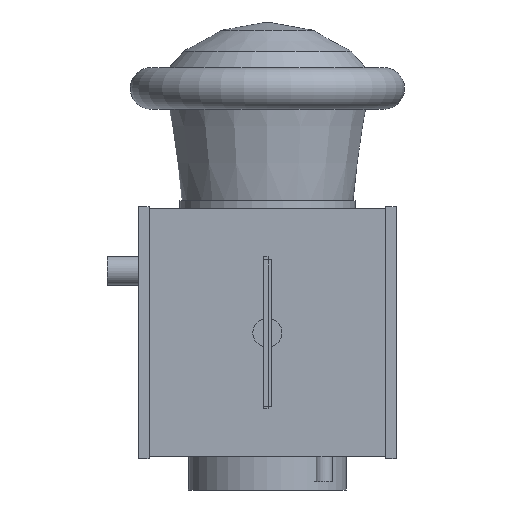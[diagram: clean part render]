
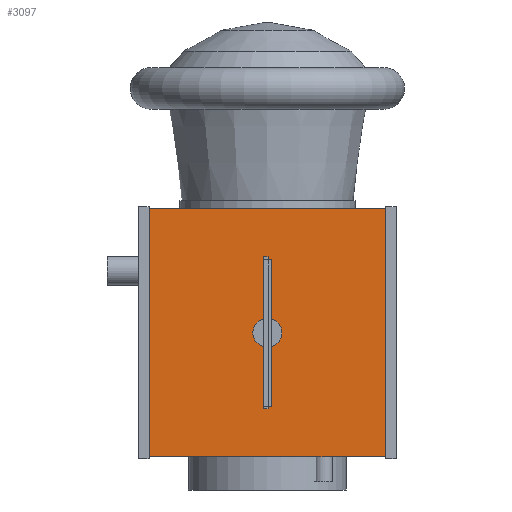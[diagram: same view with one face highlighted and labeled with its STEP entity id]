
A CAD part, left-side view. The second image highlights one B-rep face of the part: STEP entity #3097.
In plain terms, the highlighted planar face has unit normal (-1, 0, 0).
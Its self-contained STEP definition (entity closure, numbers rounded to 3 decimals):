
#3097 = ADVANCED_FACE('',(#3098),#3112,.F.);
#3098 = FACE_BOUND('',#3099,.F.);
#3099 = EDGE_LOOP('',(#3100,#3135,#3163,#3191));
#3100 = ORIENTED_EDGE('',*,*,#3101,.F.);
#3101 = EDGE_CURVE('',#3102,#3104,#3106,.T.);
#3102 = VERTEX_POINT('',#3103);
#3103 = CARTESIAN_POINT('',(-0.296,-0.296,-0.598));
#3104 = VERTEX_POINT('',#3105);
#3105 = CARTESIAN_POINT('',(-0.296,-0.296,0.));
#3106 = SURFACE_CURVE('',#3107,(#3111,#3123),.PCURVE_S1.);
#3107 = LINE('',#3108,#3109);
#3108 = CARTESIAN_POINT('',(-0.296,-0.296,-0.598));
#3109 = VECTOR('',#3110,1.);
#3110 = DIRECTION('',(0.,0.,1.));
#3111 = PCURVE('',#3112,#3117);
#3112 = PLANE('',#3113);
#3113 = AXIS2_PLACEMENT_3D('',#3114,#3115,#3116);
#3114 = CARTESIAN_POINT('',(-0.296,-0.296,-0.598));
#3115 = DIRECTION('',(1.,0.,0.));
#3116 = DIRECTION('',(0.,0.,1.));
#3117 = DEFINITIONAL_REPRESENTATION('',(#3118),#3122);
#3118 = LINE('',#3119,#3120);
#3119 = CARTESIAN_POINT('',(0.,0.));
#3120 = VECTOR('',#3121,1.);
#3121 = DIRECTION('',(1.,0.));
#3122 = ( GEOMETRIC_REPRESENTATION_CONTEXT(2) 
PARAMETRIC_REPRESENTATION_CONTEXT() REPRESENTATION_CONTEXT('2D SPACE',''
  ) );
#3123 = PCURVE('',#3124,#3129);
#3124 = PLANE('',#3125);
#3125 = AXIS2_PLACEMENT_3D('',#3126,#3127,#3128);
#3126 = CARTESIAN_POINT('',(-0.296,-0.296,-0.598));
#3127 = DIRECTION('',(0.,1.,0.));
#3128 = DIRECTION('',(0.,0.,1.));
#3129 = DEFINITIONAL_REPRESENTATION('',(#3130),#3134);
#3130 = LINE('',#3131,#3132);
#3131 = CARTESIAN_POINT('',(0.,0.));
#3132 = VECTOR('',#3133,1.);
#3133 = DIRECTION('',(1.,0.));
#3134 = ( GEOMETRIC_REPRESENTATION_CONTEXT(2) 
PARAMETRIC_REPRESENTATION_CONTEXT() REPRESENTATION_CONTEXT('2D SPACE',''
  ) );
#3135 = ORIENTED_EDGE('',*,*,#3136,.T.);
#3136 = EDGE_CURVE('',#3102,#3137,#3139,.T.);
#3137 = VERTEX_POINT('',#3138);
#3138 = CARTESIAN_POINT('',(-0.296,0.296,-0.598));
#3139 = SURFACE_CURVE('',#3140,(#3144,#3151),.PCURVE_S1.);
#3140 = LINE('',#3141,#3142);
#3141 = CARTESIAN_POINT('',(-0.296,-0.296,-0.598));
#3142 = VECTOR('',#3143,1.);
#3143 = DIRECTION('',(0.,1.,0.));
#3144 = PCURVE('',#3112,#3145);
#3145 = DEFINITIONAL_REPRESENTATION('',(#3146),#3150);
#3146 = LINE('',#3147,#3148);
#3147 = CARTESIAN_POINT('',(0.,0.));
#3148 = VECTOR('',#3149,1.);
#3149 = DIRECTION('',(0.,-1.));
#3150 = ( GEOMETRIC_REPRESENTATION_CONTEXT(2) 
PARAMETRIC_REPRESENTATION_CONTEXT() REPRESENTATION_CONTEXT('2D SPACE',''
  ) );
#3151 = PCURVE('',#3152,#3157);
#3152 = PLANE('',#3153);
#3153 = AXIS2_PLACEMENT_3D('',#3154,#3155,#3156);
#3154 = CARTESIAN_POINT('',(-0.296,-0.296,-0.598));
#3155 = DIRECTION('',(0.,0.,1.));
#3156 = DIRECTION('',(1.,0.,0.));
#3157 = DEFINITIONAL_REPRESENTATION('',(#3158),#3162);
#3158 = LINE('',#3159,#3160);
#3159 = CARTESIAN_POINT('',(0.,0.));
#3160 = VECTOR('',#3161,1.);
#3161 = DIRECTION('',(0.,1.));
#3162 = ( GEOMETRIC_REPRESENTATION_CONTEXT(2) 
PARAMETRIC_REPRESENTATION_CONTEXT() REPRESENTATION_CONTEXT('2D SPACE',''
  ) );
#3163 = ORIENTED_EDGE('',*,*,#3164,.T.);
#3164 = EDGE_CURVE('',#3137,#3165,#3167,.T.);
#3165 = VERTEX_POINT('',#3166);
#3166 = CARTESIAN_POINT('',(-0.296,0.296,0.));
#3167 = SURFACE_CURVE('',#3168,(#3172,#3179),.PCURVE_S1.);
#3168 = LINE('',#3169,#3170);
#3169 = CARTESIAN_POINT('',(-0.296,0.296,-0.598));
#3170 = VECTOR('',#3171,1.);
#3171 = DIRECTION('',(0.,0.,1.));
#3172 = PCURVE('',#3112,#3173);
#3173 = DEFINITIONAL_REPRESENTATION('',(#3174),#3178);
#3174 = LINE('',#3175,#3176);
#3175 = CARTESIAN_POINT('',(0.,-0.591));
#3176 = VECTOR('',#3177,1.);
#3177 = DIRECTION('',(1.,0.));
#3178 = ( GEOMETRIC_REPRESENTATION_CONTEXT(2) 
PARAMETRIC_REPRESENTATION_CONTEXT() REPRESENTATION_CONTEXT('2D SPACE',''
  ) );
#3179 = PCURVE('',#3180,#3185);
#3180 = PLANE('',#3181);
#3181 = AXIS2_PLACEMENT_3D('',#3182,#3183,#3184);
#3182 = CARTESIAN_POINT('',(-0.296,0.296,-0.598));
#3183 = DIRECTION('',(0.,1.,0.));
#3184 = DIRECTION('',(0.,0.,1.));
#3185 = DEFINITIONAL_REPRESENTATION('',(#3186),#3190);
#3186 = LINE('',#3187,#3188);
#3187 = CARTESIAN_POINT('',(0.,0.));
#3188 = VECTOR('',#3189,1.);
#3189 = DIRECTION('',(1.,0.));
#3190 = ( GEOMETRIC_REPRESENTATION_CONTEXT(2) 
PARAMETRIC_REPRESENTATION_CONTEXT() REPRESENTATION_CONTEXT('2D SPACE',''
  ) );
#3191 = ORIENTED_EDGE('',*,*,#3192,.F.);
#3192 = EDGE_CURVE('',#3104,#3165,#3193,.T.);
#3193 = SURFACE_CURVE('',#3194,(#3198,#3205),.PCURVE_S1.);
#3194 = LINE('',#3195,#3196);
#3195 = CARTESIAN_POINT('',(-0.296,-0.296,0.));
#3196 = VECTOR('',#3197,1.);
#3197 = DIRECTION('',(0.,1.,0.));
#3198 = PCURVE('',#3112,#3199);
#3199 = DEFINITIONAL_REPRESENTATION('',(#3200),#3204);
#3200 = LINE('',#3201,#3202);
#3201 = CARTESIAN_POINT('',(0.598,0.));
#3202 = VECTOR('',#3203,1.);
#3203 = DIRECTION('',(0.,-1.));
#3204 = ( GEOMETRIC_REPRESENTATION_CONTEXT(2) 
PARAMETRIC_REPRESENTATION_CONTEXT() REPRESENTATION_CONTEXT('2D SPACE',''
  ) );
#3205 = PCURVE('',#3206,#3211);
#3206 = PLANE('',#3207);
#3207 = AXIS2_PLACEMENT_3D('',#3208,#3209,#3210);
#3208 = CARTESIAN_POINT('',(-0.296,-0.296,0.));
#3209 = DIRECTION('',(0.,0.,1.));
#3210 = DIRECTION('',(1.,0.,0.));
#3211 = DEFINITIONAL_REPRESENTATION('',(#3212),#3216);
#3212 = LINE('',#3213,#3214);
#3213 = CARTESIAN_POINT('',(0.,0.));
#3214 = VECTOR('',#3215,1.);
#3215 = DIRECTION('',(0.,1.));
#3216 = ( GEOMETRIC_REPRESENTATION_CONTEXT(2) 
PARAMETRIC_REPRESENTATION_CONTEXT() REPRESENTATION_CONTEXT('2D SPACE',''
  ) );
